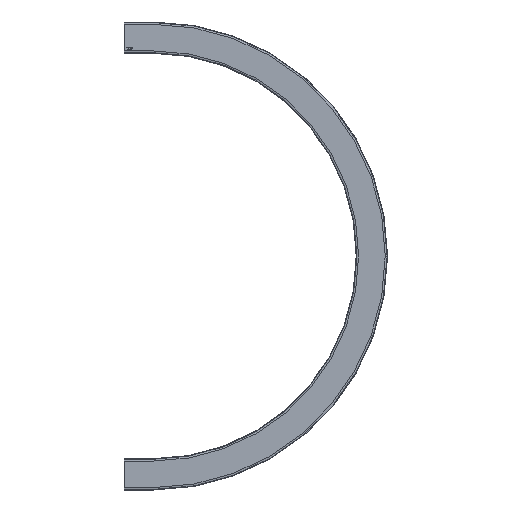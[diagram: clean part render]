
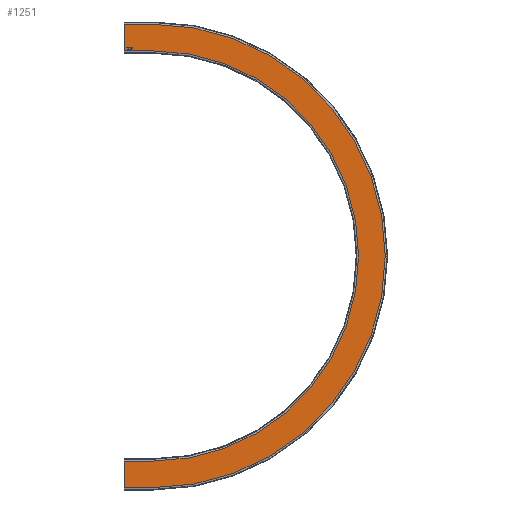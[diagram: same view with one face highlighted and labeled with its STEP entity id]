
A CAD part, top view. The second image highlights one B-rep face of the part: STEP entity #1251.
In plain terms, the highlighted planar face has unit normal (0, 0, 1).
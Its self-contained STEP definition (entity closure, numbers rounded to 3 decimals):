
#243=CARTESIAN_POINT('',(10.621,-29.49,0.0));
#244=VERTEX_POINT('',#243);
#251=CARTESIAN_POINT('',(13.541,-32.563,0.0));
#252=VERTEX_POINT('',#251);
#253=CARTESIAN_POINT('',(13.541,-32.563,0.0));
#254=CARTESIAN_POINT('',(12.676,-32.563,0.0));
#255=CARTESIAN_POINT('',(11.319,-31.731,0.0));
#256=CARTESIAN_POINT('',(10.621,-30.294,0.0));
#257=CARTESIAN_POINT('',(10.621,-29.49,0.0));
#258=QUASI_UNIFORM_CURVE('',2,(#253,#254,#255,#256,#257),.UNSPECIFIED.,.F.,.U.);
#259=EDGE_CURVE('',#252,#244,#258,.T.);
#292=CARTESIAN_POINT('',(16.456,-29.42,0.0));
#293=VERTEX_POINT('',#292);
#294=CARTESIAN_POINT('',(16.456,-29.42,0.0));
#295=CARTESIAN_POINT('',(16.456,-30.346,0.0));
#296=CARTESIAN_POINT('',(15.708,-31.81,0.0));
#297=CARTESIAN_POINT('',(14.331,-32.563,0.0));
#298=CARTESIAN_POINT('',(13.541,-32.563,0.0));
#299=QUASI_UNIFORM_CURVE('',2,(#294,#295,#296,#297,#298),.UNSPECIFIED.,.F.,.U.);
#300=EDGE_CURVE('',#293,#252,#299,.T.);
#333=CARTESIAN_POINT('',(13.541,-26.254,0.0));
#334=VERTEX_POINT('',#333);
#335=CARTESIAN_POINT('',(13.541,-26.254,0.0));
#336=CARTESIAN_POINT('',(14.387,-26.254,0.0));
#337=CARTESIAN_POINT('',(15.745,-27.063,0.0));
#338=CARTESIAN_POINT('',(16.456,-28.504,0.0));
#339=CARTESIAN_POINT('',(16.456,-29.42,0.0));
#340=QUASI_UNIFORM_CURVE('',2,(#335,#336,#337,#338,#339),.UNSPECIFIED.,.F.,.U.);
#341=EDGE_CURVE('',#334,#293,#340,.T.);
#369=CARTESIAN_POINT('',(10.621,-29.49,0.0));
#370=CARTESIAN_POINT('',(10.621,-27.97,0.0));
#371=CARTESIAN_POINT('',(12.253,-26.254,0.0));
#372=CARTESIAN_POINT('',(13.541,-26.254,0.0));
#373=QUASI_UNIFORM_CURVE('',2,(#369,#370,#371,#372),.UNSPECIFIED.,.F.,.U.);
#374=EDGE_CURVE('',#244,#334,#373,.T.);
#413=CARTESIAN_POINT('',(7.208,-32.461,0.0));
#414=VERTEX_POINT('',#413);
#421=CARTESIAN_POINT('',(8.017,-32.461,0.0));
#422=VERTEX_POINT('',#421);
#423=CARTESIAN_POINT('',(8.017,-32.461,0.0));
#424=DIRECTION('',(-1.0,0.0,0.0));
#425=VECTOR('',#424,0.809);
#426=LINE('',#423,#425);
#427=EDGE_CURVE('',#422,#414,#426,.T.);
#452=CARTESIAN_POINT('',(8.017,-27.082,0.0));
#453=VERTEX_POINT('',#452);
#454=CARTESIAN_POINT('',(8.017,-27.082,0.0));
#455=DIRECTION('',(0.0,-1.0,0.0));
#456=VECTOR('',#455,5.379);
#457=LINE('',#454,#456);
#458=EDGE_CURVE('',#453,#422,#457,.T.);
#483=CARTESIAN_POINT('',(10.035,-27.082,0.0));
#484=VERTEX_POINT('',#483);
#485=CARTESIAN_POINT('',(10.035,-27.082,0.0));
#486=DIRECTION('',(-1.0,0.0,0.0));
#487=VECTOR('',#486,2.018);
#488=LINE('',#485,#487);
#489=EDGE_CURVE('',#484,#453,#488,.T.);
#514=CARTESIAN_POINT('',(10.035,-26.361,0.0));
#515=VERTEX_POINT('',#514);
#516=CARTESIAN_POINT('',(10.035,-26.361,0.0));
#517=DIRECTION('',(0.0,-1.0,0.0));
#518=VECTOR('',#517,0.721);
#519=LINE('',#516,#518);
#520=EDGE_CURVE('',#515,#484,#519,.T.);
#545=CARTESIAN_POINT('',(5.2,-26.361,0.0));
#546=VERTEX_POINT('',#545);
#547=CARTESIAN_POINT('',(5.2,-26.361,0.0));
#548=DIRECTION('',(1.0,0.0,0.0));
#549=VECTOR('',#548,4.835);
#550=LINE('',#547,#549);
#551=EDGE_CURVE('',#546,#515,#550,.T.);
#576=CARTESIAN_POINT('',(5.2,-27.082,0.0));
#577=VERTEX_POINT('',#576);
#578=CARTESIAN_POINT('',(5.2,-27.082,0.0));
#579=DIRECTION('',(0.0,1.0,0.0));
#580=VECTOR('',#579,0.721);
#581=LINE('',#578,#580);
#582=EDGE_CURVE('',#577,#546,#581,.T.);
#607=CARTESIAN_POINT('',(7.208,-27.082,0.0));
#608=VERTEX_POINT('',#607);
#609=CARTESIAN_POINT('',(7.208,-27.082,0.0));
#610=DIRECTION('',(-1.0,0.0,0.0));
#611=VECTOR('',#610,2.009);
#612=LINE('',#609,#611);
#613=EDGE_CURVE('',#608,#577,#612,.T.);
#636=CARTESIAN_POINT('',(7.208,-32.461,0.0));
#637=DIRECTION('',(0.0,1.0,0.0));
#638=VECTOR('',#637,5.379);
#639=LINE('',#636,#638);
#640=EDGE_CURVE('',#414,#608,#639,.T.);
#877=CARTESIAN_POINT('',(17.493,-32.461,0.0));
#878=VERTEX_POINT('',#877);
#885=CARTESIAN_POINT('',(18.302,-32.461,0.0));
#886=VERTEX_POINT('',#885);
#887=CARTESIAN_POINT('',(18.302,-32.461,0.0));
#888=DIRECTION('',(-1.0,0.0,0.0));
#889=VECTOR('',#888,0.809);
#890=LINE('',#887,#889);
#891=EDGE_CURVE('',#886,#878,#890,.T.);
#916=CARTESIAN_POINT('',(18.302,-29.983,0.0));
#917=VERTEX_POINT('',#916);
#918=CARTESIAN_POINT('',(18.302,-29.983,0.0));
#919=DIRECTION('',(0.0,-1.0,0.0));
#920=VECTOR('',#919,2.478);
#921=LINE('',#918,#920);
#922=EDGE_CURVE('',#917,#886,#921,.T.);
#947=CARTESIAN_POINT('',(19.869,-29.983,0.0));
#948=VERTEX_POINT('',#947);
#949=CARTESIAN_POINT('',(19.869,-29.983,0.0));
#950=DIRECTION('',(-1.0,0.0,0.0));
#951=VECTOR('',#950,1.567);
#952=LINE('',#949,#951);
#953=EDGE_CURVE('',#948,#917,#952,.T.);
#983=CARTESIAN_POINT('',(22.152,-28.128,0.0));
#984=VERTEX_POINT('',#983);
#985=CARTESIAN_POINT('',(22.152,-28.128,0.0));
#986=CARTESIAN_POINT('',(22.152,-28.904,0.0));
#987=CARTESIAN_POINT('',(21.161,-29.983,0.0));
#988=CARTESIAN_POINT('',(19.869,-29.983,0.0));
#989=QUASI_UNIFORM_CURVE('',2,(#985,#986,#987,#988),.UNSPECIFIED.,.F.,.U.);
#990=EDGE_CURVE('',#984,#948,#989,.T.);
#1023=CARTESIAN_POINT('',(20.724,-26.422,0.0));
#1024=VERTEX_POINT('',#1023);
#1025=CARTESIAN_POINT('',(20.724,-26.422,0.0));
#1026=CARTESIAN_POINT('',(21.175,-26.496,0.0));
#1027=CARTESIAN_POINT('',(21.78,-26.914,0.0));
#1028=CARTESIAN_POINT('',(22.152,-27.672,0.0));
#1029=CARTESIAN_POINT('',(22.152,-28.128,0.0));
#1030=QUASI_UNIFORM_CURVE('',2,(#1025,#1026,#1027,#1028,#1029),.UNSPECIFIED.,.F.,.U.);
#1031=EDGE_CURVE('',#1024,#984,#1030,.T.);
#1058=CARTESIAN_POINT('',(19.794,-26.361,0.0));
#1059=VERTEX_POINT('',#1058);
#1060=CARTESIAN_POINT('',(19.794,-26.361,0.0));
#1061=CARTESIAN_POINT('',(20.403,-26.361,0.0));
#1062=CARTESIAN_POINT('',(20.724,-26.422,0.0));
#1063=QUASI_UNIFORM_CURVE('',2,(#1060,#1061,#1062),.UNSPECIFIED.,.F.,.U.);
#1064=EDGE_CURVE('',#1059,#1024,#1063,.T.);
#1089=CARTESIAN_POINT('',(17.493,-26.361,0.0));
#1090=VERTEX_POINT('',#1089);
#1091=CARTESIAN_POINT('',(17.493,-26.361,0.0));
#1092=DIRECTION('',(1.0,0.0,0.0));
#1093=VECTOR('',#1092,2.301);
#1094=LINE('',#1091,#1093);
#1095=EDGE_CURVE('',#1090,#1059,#1094,.T.);
#1118=CARTESIAN_POINT('',(17.493,-32.461,0.0));
#1119=DIRECTION('',(0.0,1.0,0.0));
#1120=VECTOR('',#1119,6.1);
#1121=LINE('',#1118,#1120);
#1122=EDGE_CURVE('',#878,#1090,#1121,.T.);
#1152=CARTESIAN_POINT('',(0.0,0.0,0.0));
#1153=DIRECTION('',(0.0,0.0,1.0));
#1154=DIRECTION('',(1.0,0.0,0.0));
#1155=AXIS2_PLACEMENT_3D('',#1152,#1153,#1154);
#1156=PLANE('',#1155);
#1157=CARTESIAN_POINT('',(0.0,36.5,0.0));
#1158=VERTEX_POINT('',#1157);
#1159=CARTESIAN_POINT('',(80.0,36.5,0.0));
#1160=VERTEX_POINT('',#1159);
#1161=CARTESIAN_POINT('',(0.0,36.5,0.0));
#1162=DIRECTION('',(1.0,0.0,0.0));
#1163=VECTOR('',#1162,80.0);
#1164=LINE('',#1161,#1163);
#1165=EDGE_CURVE('',#1158,#1160,#1164,.T.);
#1166=ORIENTED_EDGE('',*,*,#1165,.F.);
#1167=CARTESIAN_POINT('',(0.0,-36.5,0.0));
#1168=VERTEX_POINT('',#1167);
#1169=CARTESIAN_POINT('',(0.0,36.5,0.0));
#1170=DIRECTION('',(0.0,-1.0,0.0));
#1171=VECTOR('',#1170,73.0);
#1172=LINE('',#1169,#1171);
#1173=EDGE_CURVE('',#1158,#1168,#1172,.T.);
#1174=ORIENTED_EDGE('',*,*,#1173,.T.);
#1175=CARTESIAN_POINT('',(80.0,-36.5,0.0));
#1176=VERTEX_POINT('',#1175);
#1177=CARTESIAN_POINT('',(0.0,-36.5,0.0));
#1178=DIRECTION('',(1.0,0.0,0.0));
#1179=VECTOR('',#1178,80.0);
#1180=LINE('',#1177,#1179);
#1181=EDGE_CURVE('',#1168,#1176,#1180,.T.);
#1182=ORIENTED_EDGE('',*,*,#1181,.T.);
#1183=CARTESIAN_POINT('',(80.,-1163.5,0.0));
#1184=VERTEX_POINT('',#1183);
#1185=CARTESIAN_POINT('',(80.0,-600.0,0.0));
#1186=DIRECTION('',(0.0,0.0,-1.0));
#1187=DIRECTION('',(0.0,1.0,0.0));
#1188=AXIS2_PLACEMENT_3D('',#1185,#1186,#1187);
#1189=CIRCLE('',#1188,563.5);
#1190=EDGE_CURVE('',#1176,#1184,#1189,.T.);
#1191=ORIENTED_EDGE('',*,*,#1190,.T.);
#1192=CARTESIAN_POINT('',(0.,-1163.5,0.0));
#1193=VERTEX_POINT('',#1192);
#1194=CARTESIAN_POINT('',(80.,-1163.5,0.0));
#1195=DIRECTION('',(-1.0,0.0,0.0));
#1196=VECTOR('',#1195,80.);
#1197=LINE('',#1194,#1196);
#1198=EDGE_CURVE('',#1184,#1193,#1197,.T.);
#1199=ORIENTED_EDGE('',*,*,#1198,.T.);
#1200=CARTESIAN_POINT('',(0.,-1236.5,0.0));
#1201=VERTEX_POINT('',#1200);
#1202=CARTESIAN_POINT('',(0.,-1163.5,0.0));
#1203=DIRECTION('',(0.0,-1.0,0.0));
#1204=VECTOR('',#1203,73.0);
#1205=LINE('',#1202,#1204);
#1206=EDGE_CURVE('',#1193,#1201,#1205,.T.);
#1207=ORIENTED_EDGE('',*,*,#1206,.T.);
#1208=CARTESIAN_POINT('',(80.,-1236.5,0.0));
#1209=VERTEX_POINT('',#1208);
#1210=CARTESIAN_POINT('',(80.,-1236.5,0.0));
#1211=DIRECTION('',(-1.0,0.0,0.0));
#1212=VECTOR('',#1211,80.);
#1213=LINE('',#1210,#1212);
#1214=EDGE_CURVE('',#1209,#1201,#1213,.T.);
#1215=ORIENTED_EDGE('',*,*,#1214,.F.);
#1216=CARTESIAN_POINT('',(80.0,-600.0,0.0));
#1217=DIRECTION('',(0.0,0.0,-1.0));
#1218=DIRECTION('',(0.0,1.0,0.0));
#1219=AXIS2_PLACEMENT_3D('',#1216,#1217,#1218);
#1220=CIRCLE('',#1219,636.5);
#1221=EDGE_CURVE('',#1160,#1209,#1220,.T.);
#1222=ORIENTED_EDGE('',*,*,#1221,.F.);
#1223=EDGE_LOOP('',(#1166,#1174,#1182,#1191,#1199,#1207,#1215,#1222));
#1224=FACE_OUTER_BOUND('',#1223,.T.);
#1225=ORIENTED_EDGE('',*,*,#259,.T.);
#1226=ORIENTED_EDGE('',*,*,#374,.T.);
#1227=ORIENTED_EDGE('',*,*,#341,.T.);
#1228=ORIENTED_EDGE('',*,*,#300,.T.);
#1229=EDGE_LOOP('',(#1225,#1226,#1227,#1228));
#1230=FACE_BOUND('',#1229,.T.);
#1231=ORIENTED_EDGE('',*,*,#427,.T.);
#1232=ORIENTED_EDGE('',*,*,#640,.T.);
#1233=ORIENTED_EDGE('',*,*,#613,.T.);
#1234=ORIENTED_EDGE('',*,*,#582,.T.);
#1235=ORIENTED_EDGE('',*,*,#551,.T.);
#1236=ORIENTED_EDGE('',*,*,#520,.T.);
#1237=ORIENTED_EDGE('',*,*,#489,.T.);
#1238=ORIENTED_EDGE('',*,*,#458,.T.);
#1239=EDGE_LOOP('',(#1231,#1232,#1233,#1234,#1235,#1236,#1237,#1238));
#1240=FACE_BOUND('',#1239,.T.);
#1241=ORIENTED_EDGE('',*,*,#891,.T.);
#1242=ORIENTED_EDGE('',*,*,#1122,.T.);
#1243=ORIENTED_EDGE('',*,*,#1095,.T.);
#1244=ORIENTED_EDGE('',*,*,#1064,.T.);
#1245=ORIENTED_EDGE('',*,*,#1031,.T.);
#1246=ORIENTED_EDGE('',*,*,#990,.T.);
#1247=ORIENTED_EDGE('',*,*,#953,.T.);
#1248=ORIENTED_EDGE('',*,*,#922,.T.);
#1249=EDGE_LOOP('',(#1241,#1242,#1243,#1244,#1245,#1246,#1247,#1248));
#1250=FACE_BOUND('',#1249,.T.);
#1251=ADVANCED_FACE('',(#1224,#1230,#1240,#1250),#1156,.T.);
